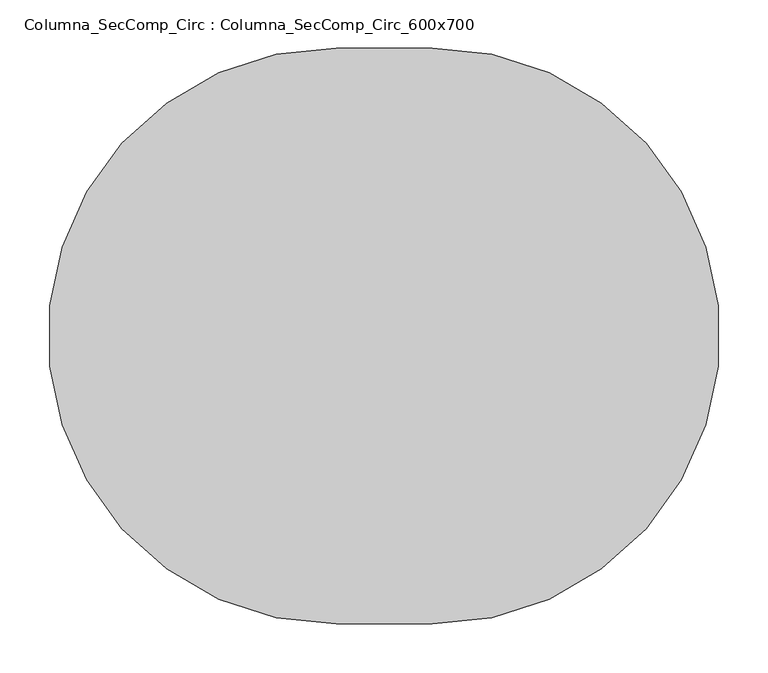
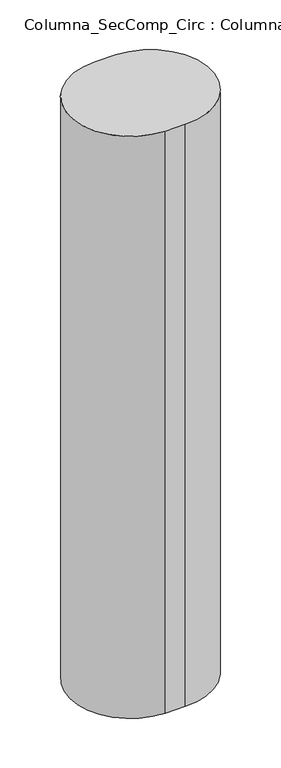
"""IFC4 building model written with IfcOpenShell, lengths in millimetres: column geometry, Columna_SecComp_Circ : Columna_SecComp_Circ_600x700."""

from ifc_helpers import new_model, si_unit, point, frame, frame_2d, origin, place, context, project, spatial, polyline, circle_curve, trimmed, segment, composite_curve, outline, extrude, source, transform, mapped, element, save


def columna_seccomp_circ_columna_seccomp_circ_600x700_09dd4ec2(model_context):
    return source(origin(), model_context, "Body", "SweptSolid", [
        extrude(outline(composite_curve([segment(polyline([(-50.0, 300.0), (50.0, 300.0)]), True, "CONTINUOUS"), segment(trimmed(circle_curve(frame_2d((50.0, 0.0)), 300.0), [point((50.0, 300.0))], [point((50.0, -300.0))], False, "CARTESIAN"), True, "CONTINUOUS"), segment(polyline([(50.0, -300.0), (-50.0, -300.0)]), True, "CONTINUOUS"), segment(trimmed(circle_curve(frame_2d((-50.0, 0.0)), 300.0), [point((-50.0, -300.0))], [point((-50.0, 300.0))], False, "CARTESIAN"), True, "CONTINUOUS")], self_intersect=False)), frame((0.0, 0.0, -1600.0), z_axis=(0.0, 0.0, 1.0), x_axis=(1.0, 0.0, 0.0)), (0.0, 0.0, 1.0), 3050.0),
    ])


if __name__ == "__main__":
    model = new_model("IFC4")
    model_context = context("Model", 3, world=origin())
    ifc_project = project(units=[si_unit("LENGTHUNIT", "METRE", prefix="MILLI")], contexts=[model_context])
    site = spatial("IfcSite", under=ifc_project)
    building = spatial("IfcBuilding", under=site)
    placement = place(None, origin())
    columna_seccomp_circ_columna_seccomp_circ_600x700_shape = columna_seccomp_circ_columna_seccomp_circ_600x700_09dd4ec2(model_context)
    element("IfcColumn", 1, ObjectType="Columna_SecComp_Circ : Columna_SecComp_Circ_600x700", at=placement, inside=building, context=model_context, shape_type="MappedRepresentation", body=[
        mapped(columna_seccomp_circ_columna_seccomp_circ_600x700_shape, transform((0.0, 0.0, 0.0), x_axis=(1.0, 0.0, 0.0), y_axis=(0.0, 1.0, 0.0), z_axis=(0.0, 0.0, 1.0))),
    ])
    save(model, "model.ifc")
